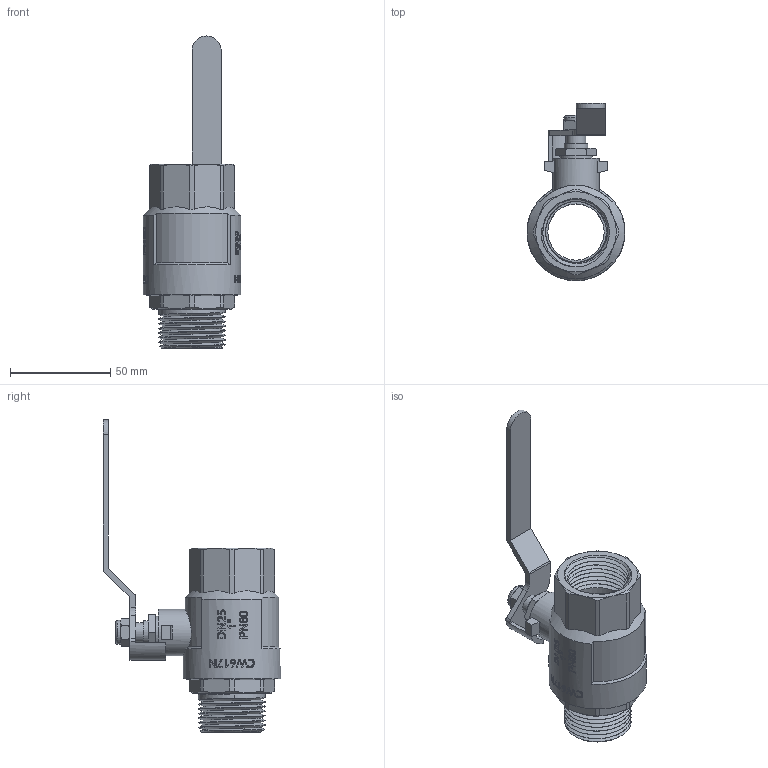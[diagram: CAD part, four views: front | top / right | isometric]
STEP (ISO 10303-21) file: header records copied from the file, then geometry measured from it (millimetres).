
FILE_DESCRIPTION(/* description */ (''),/* implementation_level */ '2;1');
FILE_NAME(/* name */ 'F:\Артём\00000\Работа удаленка\0\B\VT.315.N.06.stp',/* time_stamp */ '2021-02-03T15:51:06+03:00',/* author */ ('almis'),/* organization */ (''),/* preprocessor_version */ 'ST-DEVELOPER v18',/* originating_system */ 'Autodesk Inventor 2020',/* authorisation */ '');
FILE_SCHEMA (('AUTOMOTIVE_DESIGN { 1 0 10303 214 3 1 1 }'));
Length unit declared in the file: millimetre
Products named in the file (1): VT.314_ВВ_1
Bounding box: 48.7 x 88.23 x 155.45 mm (x, y, z)
Volume: 82491 mm3; surface area: 34291.2 mm2
Topology: 1 solids, 1 shells, 570 faces, 1523 edges, 1014 vertices
Faces by surface type: bspline 220, plane 209, cylinder 120, cone 20, torus 1
Full cylindrical faces by diameter (mm): 9.728 x1, 11.728 x1, 11.955 x1, 16.052 x1, 23 x1, 28 x1, 28.7 x7, 30.3 x7, 33.3 x7, 34.9 x9, 48.5 x1
Entity records: 28315 total; most frequent: CARTESIAN_POINT 15630, ORIENTED_EDGE 3046, DIRECTION 1908, EDGE_CURVE 1523, VERTEX_POINT 1014, LINE 674, VECTOR 674, EDGE_LOOP 631
